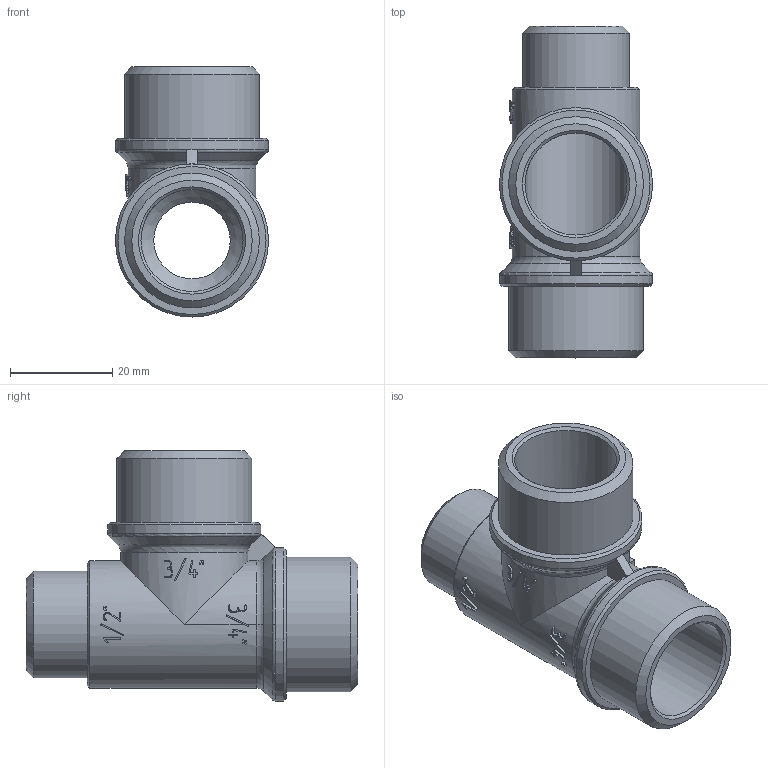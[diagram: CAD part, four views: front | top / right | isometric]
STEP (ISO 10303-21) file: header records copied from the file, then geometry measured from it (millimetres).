
FILE_DESCRIPTION(('STEP AP203'), '1');
FILE_NAME('ÂÐ.752242.005 - VTr.131.RN.050504 - Ôèò. ðåçüá. òðîé', '2024-06-25T07:32:32', ('Boss'), (''), 'C3D Converter', 'C3D Toolkit', '');
FILE_SCHEMA(('CONFIG_CONTROL_DESIGN'));
Length unit declared in the file: millimetre
Products named in the file (1): ВР.752242.005
Bounding box: 30 x 65 x 49 mm (x, y, z)
Volume: 18225.4 mm3; surface area: 12961.4 mm2
Topology: 1 solids, 1 shells, 360 faces, 1008 edges, 667 vertices
Faces by surface type: extrusion 196, plane 118, cylinder 28, cone 12, torus 6
Full cylindrical faces by diameter (mm): 15 x1, 20 x2, 20.955 x1, 25 x1, 26.4 x2, 30 x2
Entity records: 15159 total; most frequent: CARTESIAN_POINT 7044, ORIENTED_EDGE 1966, DIRECTION 1065, EDGE_CURVE 983, VERTEX_POINT 665, B_SPLINE_CURVE_WITH_KNOTS 605, VECTOR 569, EDGE_LOOP 402
